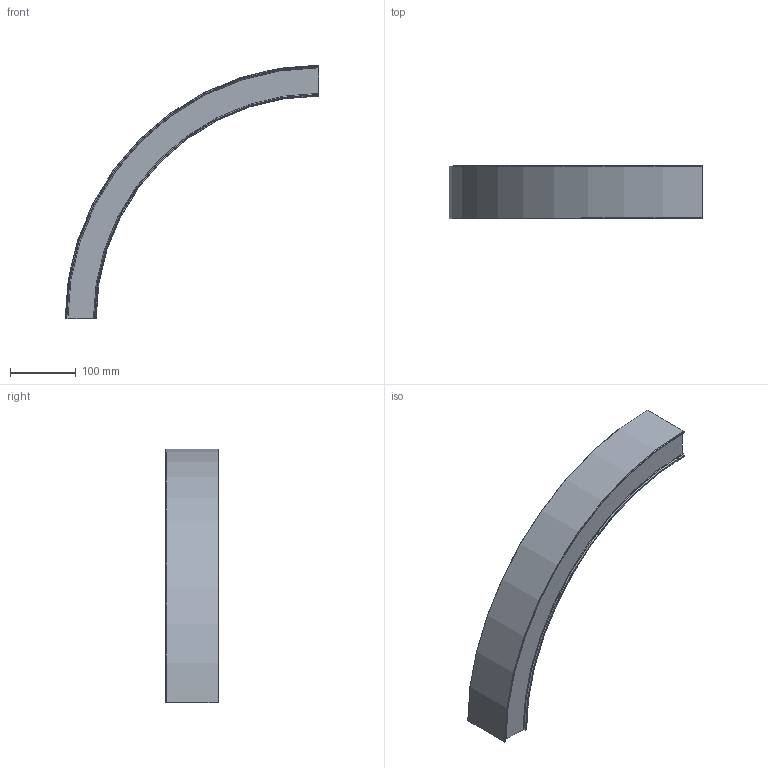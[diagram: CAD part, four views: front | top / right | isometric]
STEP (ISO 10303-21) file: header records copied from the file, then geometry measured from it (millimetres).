
FILE_DESCRIPTION (( 'STEP AP203' ), '1' );
FILE_NAME ('mLight_Swerve 47_R362.5 mm 90 deg.STEP', '2020-04-01T01:19:13', ( '' ), ( '' ), 'SwSTEP 2.0', 'SolidWorks 2017', '' );
FILE_SCHEMA (( 'CONFIG_CONTROL_DESIGN' ));
Length unit declared in the file: millimetre
Products named in the file (1): mLight_Swerve 47_R362.5 mm 90 deg
Bounding box: 386 x 80.63 x 386 mm (x, y, z)
Volume: 2052909.5 mm3; surface area: 164423.7 mm2
Topology: 1 solids, 1 shells, 46 faces, 132 edges, 88 vertices
Faces by surface type: torus 24, plane 10, cylinder 6, cone 6
Entity records: 1645 total; most frequent: DIRECTION 318, CARTESIAN_POINT 267, ORIENTED_EDGE 264, AXIS2_PLACEMENT_3D 139, EDGE_CURVE 132, CIRCLE 92, VERTEX_POINT 88, ADVANCED_FACE 46
